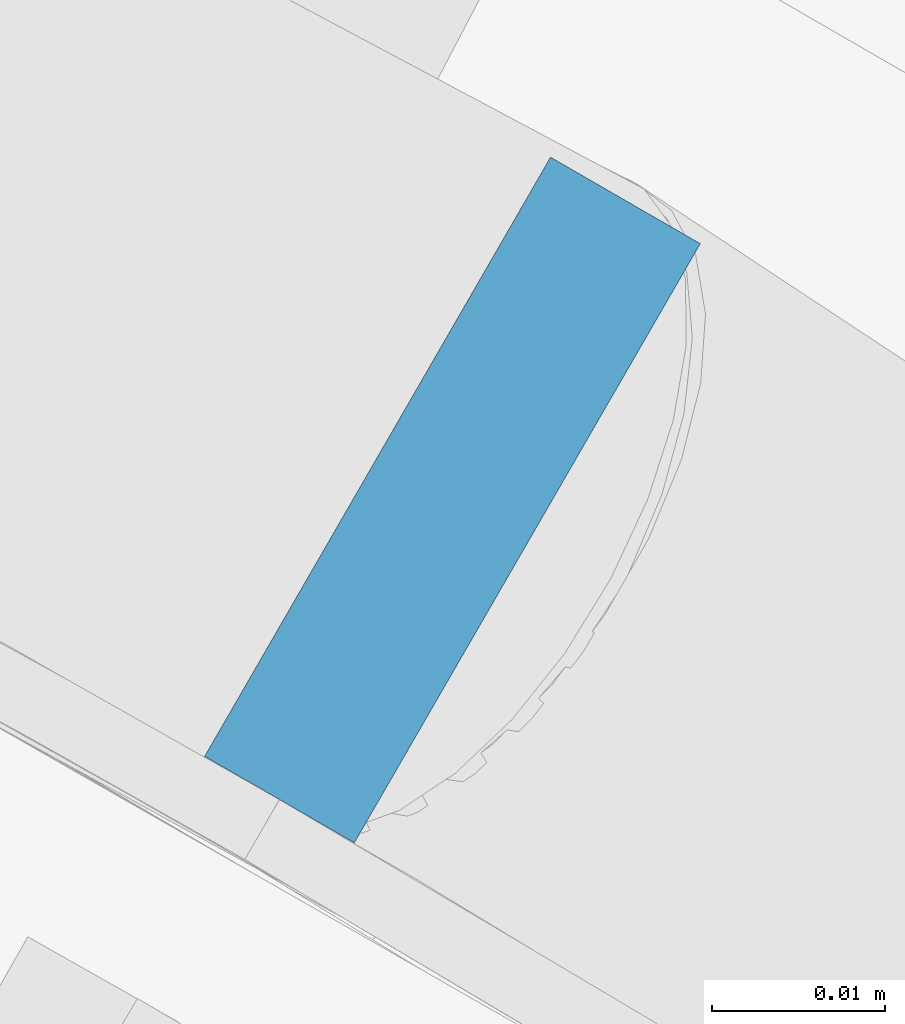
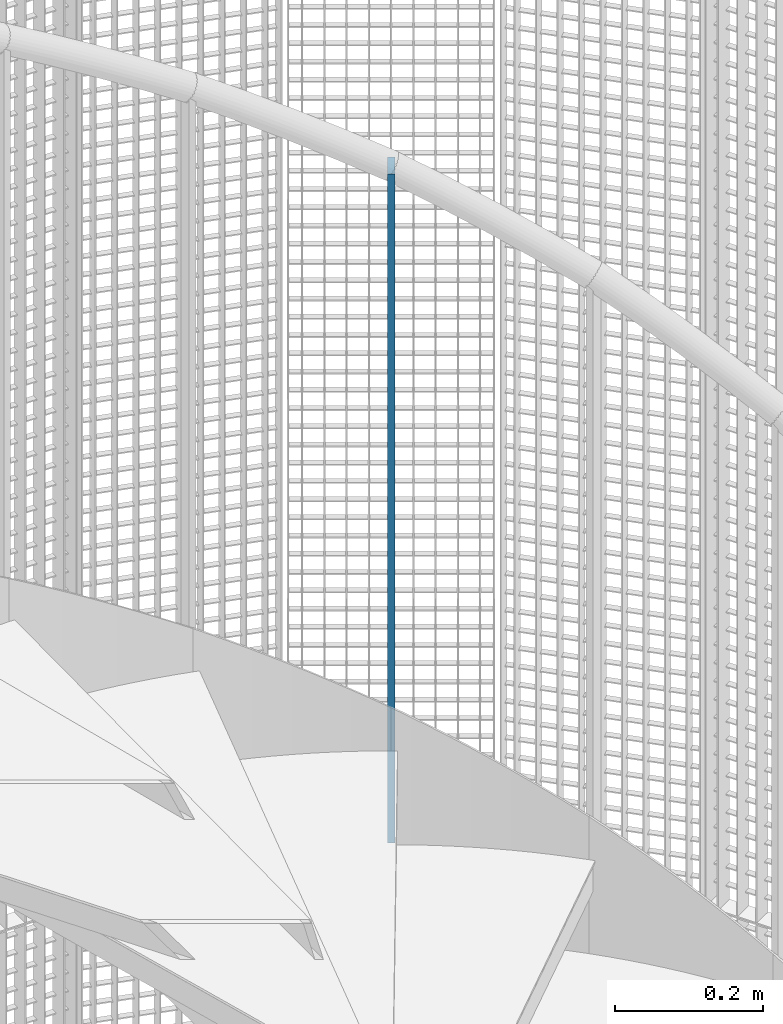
# One storey, part 31 of 1148: 1 column, 1 element without a shape of its own.
"""IFC2X3 building model written with IfcOpenShell, lengths in millimetres."""

from ifc_helpers import new_model, si_unit, frame, origin_with_axes, origin_2d_with_axis, place, context, subcontext, project, spatial, rectangle, extrude, material, type_object, element, aggregate, save


model = new_model("IFC2X3")

# Units and contexts
model_context = context("Model", 3, precision=1e-05, world=origin_with_axes())
body_context = subcontext(model_context, "Body", "Model", "MODEL_VIEW")
ifc_project = project(units=[si_unit("LENGTHUNIT", "METRE", prefix="MILLI"), si_unit("AREAUNIT", "SQUARE_METRE"), si_unit("VOLUMEUNIT", "CUBIC_METRE"), si_unit("MASSUNIT", "GRAM", prefix="KILO"), si_unit("TIMEUNIT", "SECOND"), si_unit("PLANEANGLEUNIT", "RADIAN"), si_unit("SOLIDANGLEUNIT", "STERADIAN"), si_unit("THERMODYNAMICTEMPERATUREUNIT", "DEGREE_CELSIUS"), si_unit("LUMINOUSINTENSITYUNIT", "LUMEN")], contexts=[model_context])

# Site, building, storey
site_placement = place(None, origin_with_axes())
site = spatial("IfcSite", under=ifc_project, at=site_placement, Name="Undefined", CompositionType="ELEMENT")
building_placement = place(site_placement, origin_with_axes())
building = spatial("IfcBuilding", under=site, at=building_placement, Name="Undefined", CompositionType="ELEMENT")
storey_placement = place(building_placement, origin_with_axes())
storey = spatial("IfcBuildingStorey", under=building, at=storey_placement, Name="Undefined", CompositionType="ELEMENT", Elevation=0.0)

# Assembly, column
assembly_placement = place(storey_placement, origin_with_axes())
assembly = element("IfcElementAssembly", 1, at=assembly_placement, inside=storey, Name="MONTANT", AssemblyPlace="NOTDEFINED", PredefinedType="NOTDEFINED")
ifc_material = material(Name="STEEL/S235JR")
column_type = type_object("IfcColumnType", Name="PL10*40", PredefinedType="NOTDEFINED")
column_placement = place(assembly_placement, frame((526.999999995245, 912.790775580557, 3090.4), z_axis=(0.0, 0.0, 1.0), x_axis=(-0.49999999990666, -0.866025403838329, 0.0)))
column = element("IfcColumn", 2, at=column_placement, type_object=column_type, material=ifc_material, Name="MONTANT", context=body_context, shape_type="SweptSolid", body=[
    extrude(rectangle(XDim=10.0, YDim=40.0, at=origin_2d_with_axis()), frame((0.0, 0.0, 1100.0), z_axis=(0.0, 0.0, -1.0), x_axis=(0.0, 1.0, 0.0)), (0.0, 0.0, 1.0), 1100.0),
])
aggregate(assembly, [column])

save(model, "model.ifc")
